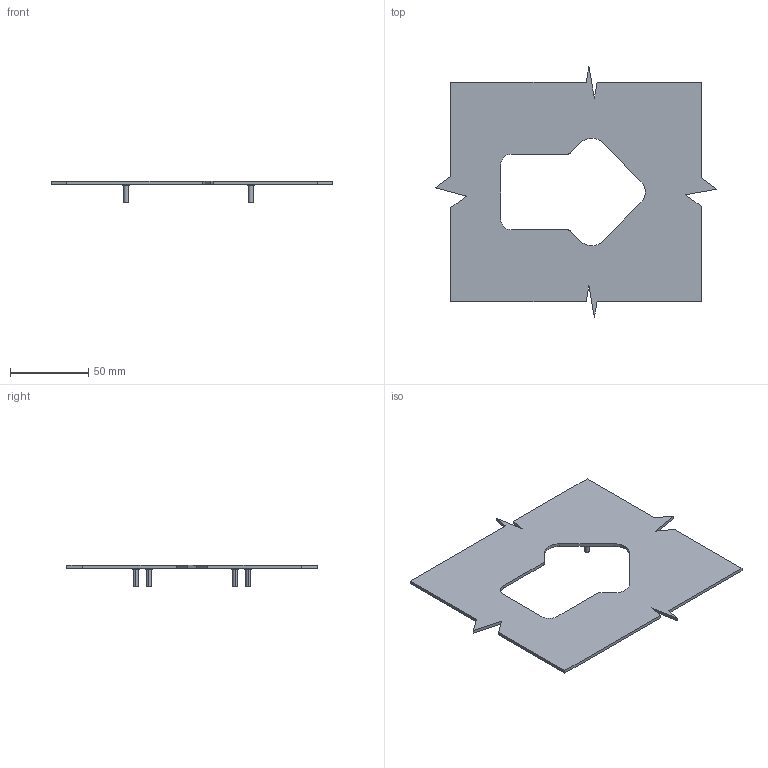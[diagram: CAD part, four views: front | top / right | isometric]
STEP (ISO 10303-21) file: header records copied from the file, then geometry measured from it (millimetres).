
FILE_DESCRIPTION (( 'STEP AP214' ), '1' );
FILE_NAME ('127-00-33~1.STEP', '2015-09-04T13:27:13', ( '' ), ( '' ), 'SwSTEP 2.0', 'SolidWorks 2013', '' );
FILE_SCHEMA (( 'AUTOMOTIVE_DESIGN' ));
Length unit declared in the file: millimetre
Products named in the file (1): 127-00-33~1
Bounding box: 180 x 160 x 14 mm (x, y, z)
Volume: 36354.5 mm3; surface area: 38427.9 mm2
Topology: 1 solids, 1 shells, 61 faces, 153 edges, 102 vertices
Faces by surface type: plane 37, cylinder 24
Entity records: 1961 total; most frequent: DIRECTION 325, CARTESIAN_POINT 317, ORIENTED_EDGE 306, EDGE_CURVE 153, AXIS2_PLACEMENT_3D 110, VECTOR 105, LINE 105, VERTEX_POINT 102
